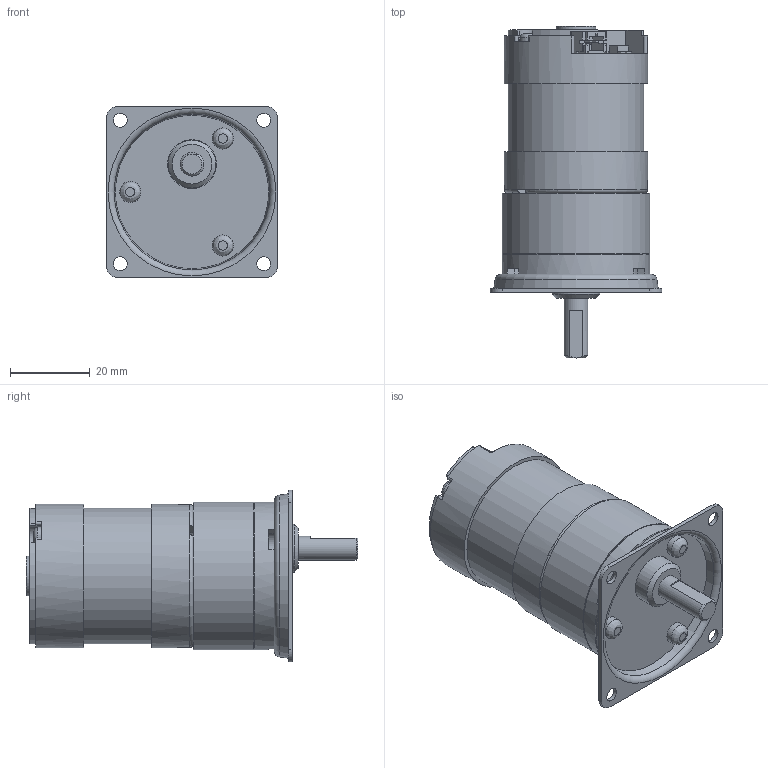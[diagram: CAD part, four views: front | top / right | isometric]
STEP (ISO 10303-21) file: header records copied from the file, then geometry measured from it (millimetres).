
FILE_DESCRIPTION((''),'2;1');
FILE_NAME('\\Servert1600\threepeace\2015homepage\STP\HP-Data_GM_3D_STEP\TP-3641AA,BA,CA,DA,EA(ドライバ内蔵)-PJ-5～10-P00-12,24.stp','2016-11-11T13:10:26',('Administrator'),(''),'Autodesk Inventor 2010','Autodesk Inventor 2010','');
FILE_SCHEMA(('AUTOMOTIVE_DESIGN { 1 0 10303 214 1 1 1 1 }'));
Length unit declared in the file: millimetre
Products named in the file (7): TP-3641AA,BA,CA,DA,EA(ドライバ内蔵)-PJ-5～10-P00-12,24; KJ-2; □43; TP-3641AA,BA,CA-24; TP-3641BA,l; S2B-PH-SM4-TB; SMD-TRIMMERS
Assembly tree (6 placements, depth 3):
  TP-3641AA,BA,CA,DA,EA(ドライバ内蔵)-PJ-5～10-P00-12,24
    KJ-2
    □43
    TP-3641AA,BA,CA-24
      TP-3641BA,l
      S2B-PH-SM4-TB
      SMD-TRIMMERS
Bounding box: 43 x 83.3 x 43 mm (x, y, z)
Volume: 63107.2 mm3; surface area: 17622.3 mm2
Topology: 6 solids, 6 shells, 272 faces, 708 edges, 468 vertices
Faces by surface type: plane 163, cylinder 54, bspline 44, torus 6, cone 5
Full cylindrical faces by diameter (mm): 1.9 x1, 2.5 x2, 5 x1, 5.3 x3, 6 x1, 10 x2, 12 x1, 12.2 x1, 34.1 x1, 36 x2, 36.6 x1, 37 x2
Entity records: 8673 total; most frequent: CARTESIAN_POINT 2188, DIRECTION 1259, ORIENTED_EDGE 1192, EDGE_CURVE 596, AXIS2_PLACEMENT_3D 428, VERTEX_POINT 425, VECTOR 403, LINE 403
